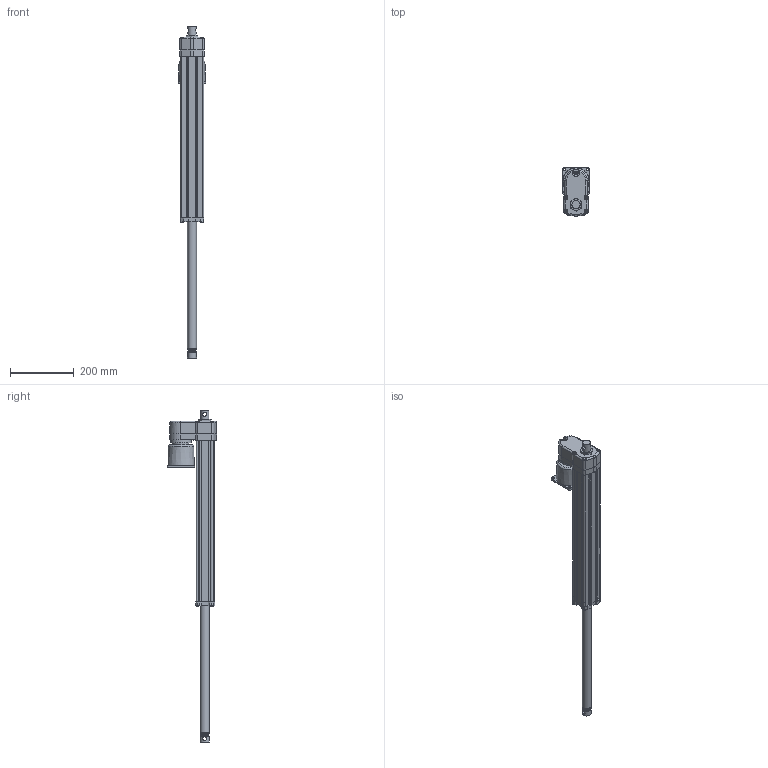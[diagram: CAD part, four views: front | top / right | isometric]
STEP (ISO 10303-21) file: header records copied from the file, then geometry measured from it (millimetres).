
FILE_DESCRIPTION (( 'STEP AP214' ), '1' );
FILE_NAME ('FA14-05A65M40M0_tollo.step', '2020-04-15T18:21:33', ( '' ), ( '' ), 'SwSTEP 2.0', 'SolidWorks 2010', '' );
FILE_SCHEMA (( 'AUTOMOTIVE_DESIGN' ));
Length unit declared in the file: millimetre
Products named in the file (9): Electrak-FA14-House-Acme-Tollo; Electrak-FA14-Rear-Tollo; Electrak-FA14-Motor-Tollo; Electrak-FA14-Tube-Acme-Tollo; Electrak-FA14-Plate-Tollo; Screw-MRT-TT-M5; Screw-M6S-M5; Electrak-FA14-Rod-Acme-Tollo; FA14-05A65M40M0_tollo
Assembly tree (15 placements, depth 3):
  FA14-05A65M40M0_tollo
    Electrak-FA14-Rod-Acme-Tollo
    Electrak-FA14-House-Acme-Tollo
      Electrak-FA14-Tube-Acme-Tollo
      Screw-M6S-M5  x8
      Electrak-FA14-Motor-Tollo
      Electrak-FA14-Rear-Tollo
      Screw-MRT-TT-M5
      Electrak-FA14-Plate-Tollo
Bounding box: 85 x 154.18 x 1041.1 mm (x, y, z)
Volume: 1582289.6 mm3; surface area: 492168 mm2
Topology: 14 solids, 14 shells, 509 faces, 1279 edges, 826 vertices
Faces by surface type: plane 234, cylinder 198, cone 57, torus 18, bspline 2
Full cylindrical faces by diameter (mm): 4.126 x8, 4.8 x6, 5 x8, 5.6 x4, 6 x1, 7 x4, 7.878 x8, 9.5 x1, 11.741 x1, 12.2 x2, 25.4 x1, 28.5 x4, 34.5 x1, 47.625 x1, 50 x1, 65 x1, 80 x1
Entity records: 11671 total; most frequent: CARTESIAN_POINT 2704, DIRECTION 1857, ORIENTED_EDGE 1700, EDGE_CURVE 850, AXIS2_PLACEMENT_3D 686, VERTEX_POINT 577, LINE 485, VECTOR 485
